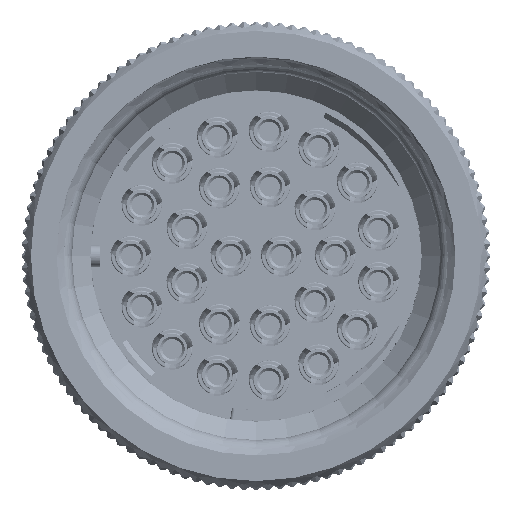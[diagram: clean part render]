
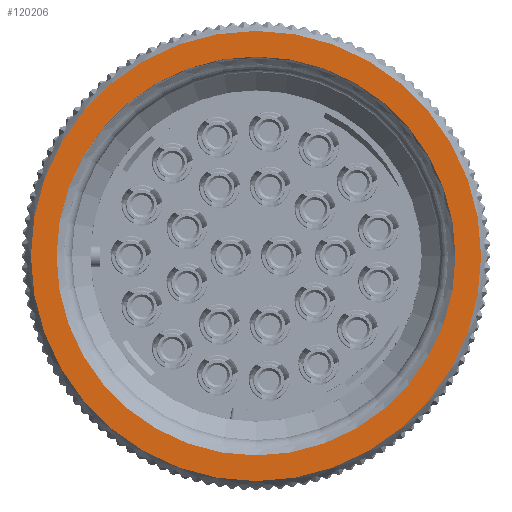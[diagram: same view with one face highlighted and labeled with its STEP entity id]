
A CAD part, left-side view. The second image highlights one B-rep face of the part: STEP entity #120206.
In plain terms, the highlighted planar face has unit normal (-1, 0, 0).
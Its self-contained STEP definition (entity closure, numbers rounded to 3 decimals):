
#53=CARTESIAN_POINT('',(0.,0.,0.));
#54=DIRECTION('',(1.,0.,0.));
#55=DIRECTION('',(0.,1.,0.));
#56=AXIS2_PLACEMENT_3D('',#53,#54,#55);
#205=CARTESIAN_POINT('',(0.,0.,0.));
#206=DIRECTION('',(-1.,0.,0.));
#207=DIRECTION('',(0.,1.,0.));
#208=AXIS2_PLACEMENT_3D('',#205,#206,#207);
#252=CARTESIAN_POINT('',(0.,0.,0.));
#253=DIRECTION('',(-1.,0.,0.));
#254=DIRECTION('',(0.,1.,0.));
#255=AXIS2_PLACEMENT_3D('',#252,#253,#254);
#257=CARTESIAN_POINT('',(0.,0.,0.));
#258=DIRECTION('',(1.,0.,0.));
#259=DIRECTION('',(0.,1.,0.));
#260=AXIS2_PLACEMENT_3D('',#257,#258,#259);
#103593=CARTESIAN_POINT('',(0.,14.673,0.));
#103594=CARTESIAN_POINT('',(0.,-14.673,0.));
#103595=VERTEX_POINT('',#103593);
#103596=VERTEX_POINT('',#103594);
#103597=CARTESIAN_POINT('',(0.,13.,0.));
#103598=CARTESIAN_POINT('',(0.,-13.,0.));
#103599=VERTEX_POINT('',#103597);
#103600=VERTEX_POINT('',#103598);
#120191=CARTESIAN_POINT('',(0.,0.,0.));
#120192=DIRECTION('',(1.,0.,0.));
#120193=DIRECTION('',(0.,-1.,0.));
#120194=AXIS2_PLACEMENT_3D('',#120191,#120192,#120193);
#120195=PLANE('279',#120194);
#120197=ORIENTED_EDGE('8399',*,*,#120196,.F.);
#120199=ORIENTED_EDGE('8381',*,*,#120198,.T.);
#120200=EDGE_LOOP('279',(#120197,#120199));
#120201=FACE_OUTER_BOUND('279',#120200,.F.);
#120202=ORIENTED_EDGE('8459',*,*,#119988,.F.);
#120203=ORIENTED_EDGE('8382',*,*,#120173,.T.);
#120204=EDGE_LOOP('279',(#120202,#120203));
#120205=FACE_BOUND('279',#120204,.F.);
#57=CIRCLE('8459',#56,13.);
#209=CIRCLE('8382',#208,13.);
#256=CIRCLE('8399',#255,14.673);
#261=CIRCLE('8381',#260,14.673);
#119988=EDGE_CURVE('8459',#103599,#103600,#57,.T.);
#120173=EDGE_CURVE('8382',#103599,#103600,#209,.T.);
#120196=EDGE_CURVE('8399',#103595,#103596,#256,.T.);
#120198=EDGE_CURVE('8381',#103595,#103596,#261,.T.);
#120206=ADVANCED_FACE('279',(#120201,#120205),#120195,.F.);
